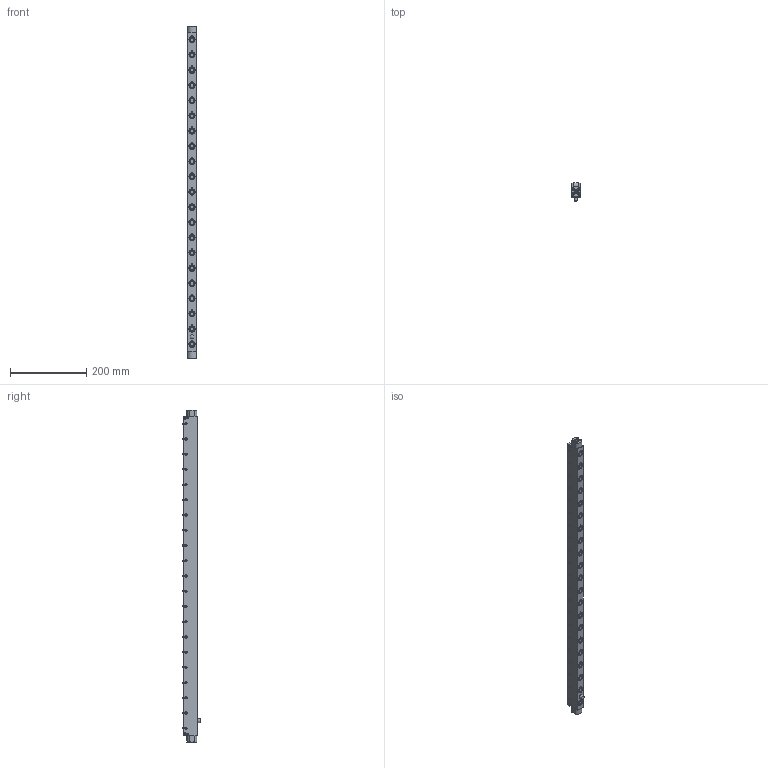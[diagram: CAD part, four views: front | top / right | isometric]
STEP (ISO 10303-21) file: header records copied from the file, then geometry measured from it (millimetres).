
FILE_DESCRIPTION(/* description */ (''),/* implementation_level */ '2;1');
FILE_NAME(/* name */ 'S:\EASCN Vault\Designs\Standard Part\DIE LIFTERS\EHR\EHR- 3D step\EHR22-C - 3D step complete serie\EHR22-21-C.stp',/* time_stamp */ '2019-09-06T13:40:45+08:00',/* author */ ('yue.yang'),/* organization */ (''),/* preprocessor_version */ 'ST-DEVELOPER v17',/* originating_system */ 'Autodesk Inventor 2019',/* authorisation */ '');
FILE_SCHEMA (('AUTOMOTIVE_DESIGN { 1 0 10303 214 3 1 1 }'));
Length unit declared in the file: millimetre
Products named in the file (1): EHR22-21-C_Shrinkwrap_1
Bounding box: 21.8 x 48.05 x 872 mm (x, y, z)
Volume: 527657.9 mm3; surface area: 206951.3 mm2
Topology: 21 solids, 21 shells, 1260 faces, 3622 edges, 2523 vertices
Faces by surface type: cylinder 423, plane 343, cone 240, torus 211, sphere 43
Full cylindrical faces by diameter (mm): 3 x10, 3.2 x8, 4 x8, 5 x84, 6 x30, 8.566 x2, 10 x3, 11 x21, 12.5 x42, 13.4 x21, 13.8 x21, 15.95 x42, 16 x43
Entity records: 46912 total; most frequent: CARTESIAN_POINT 10826, DIRECTION 8010, ORIENTED_EDGE 7186, EDGE_CURVE 3593, AXIS2_PLACEMENT_3D 3547, VERTEX_POINT 2523, CIRCLE 2286, EDGE_LOOP 1508
